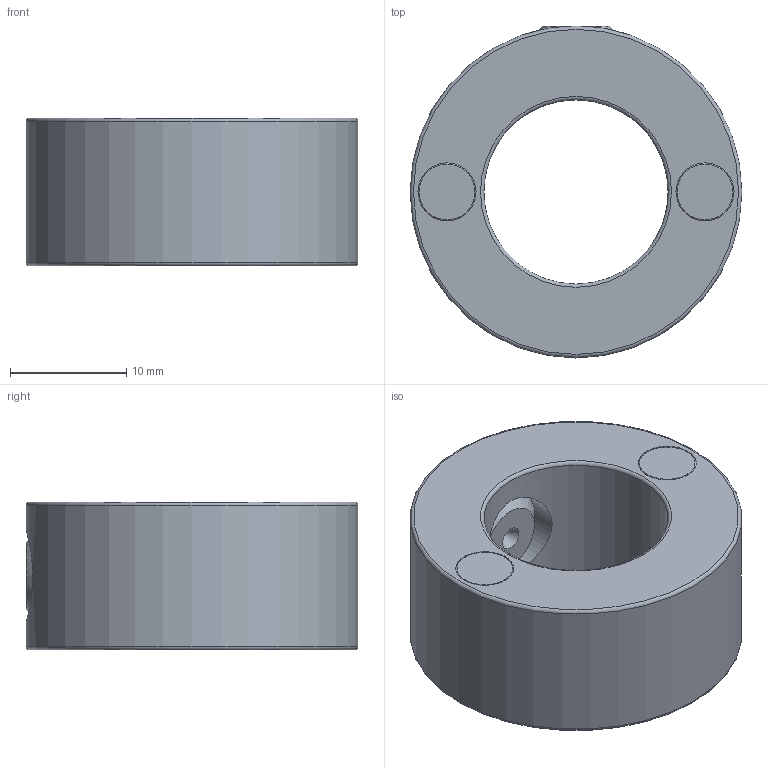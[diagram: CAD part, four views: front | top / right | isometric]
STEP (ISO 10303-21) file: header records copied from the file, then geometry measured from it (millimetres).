
FILE_DESCRIPTION(/* description */ (''),/* implementation_level */ '2;1');
FILE_NAME(/* name */ 'MAG-COL-5-8-CUST-ASSY.step',/* time_stamp */ '2025-10-02T14:24:31-05:00',/* author */ (''),/* organization */ (''),/* preprocessor_version */ 'ST-DEVELOPER v20.1',/* originating_system */ 'Autodesk Translation Framework v14.17.0.0',/* authorisation */ '');
FILE_SCHEMA (('AUTOMOTIVE_DESIGN { 1 0 10303 214 3 1 1 }'));
Length unit declared in the file: inch
Products named in the file (2): MAG-COL-5-8-CUST-ASSY; CYL0159
Assembly tree (2 placements, depth 2):
  MAG-COL-5-8-CUST-ASSY
    CYL0159  x2
Bounding box: 28.57 x 28.57 x 12.7 mm (x, y, z)
Volume: 5441.3 mm3; surface area: 3668.2 mm2
Topology: 4 solids, 4 shells, 34 faces, 71 edges, 46 vertices
Faces by surface type: plane 15, torus 8, cylinder 8, cone 3
Full cylindrical faces by diameter (mm): 5 x4, 7.938 x2, 15.875 x1, 28.575 x1
Entity records: 950 total; most frequent: CARTESIAN_POINT 206, DIRECTION 158, ORIENTED_EDGE 126, AXIS2_PLACEMENT_3D 65, EDGE_CURVE 63, VERTEX_POINT 42, EDGE_LOOP 39, CIRCLE 32
